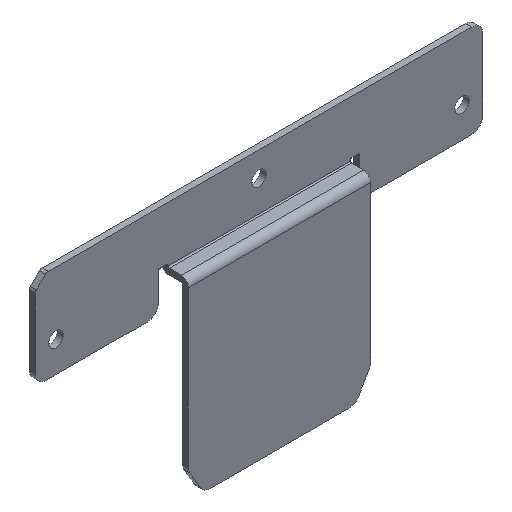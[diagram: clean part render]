
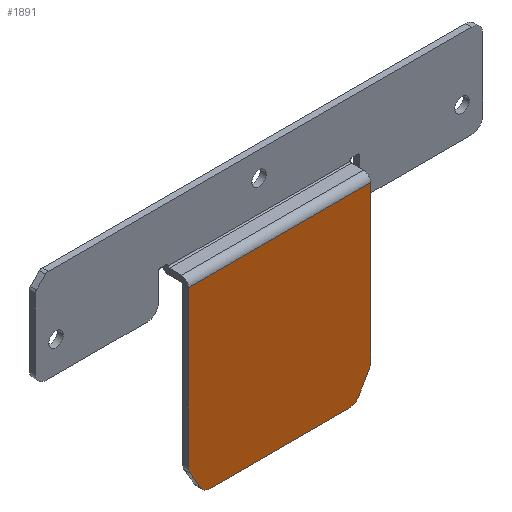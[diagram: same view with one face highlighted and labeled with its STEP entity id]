
A CAD part, isometric view. The second image highlights one B-rep face of the part: STEP entity #1891.
In plain terms, the highlighted planar face has unit normal (0, -1, 0).
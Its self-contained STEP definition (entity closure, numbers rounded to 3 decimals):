
#737=DIRECTION('',(-1.,0.,0.));
#738=VECTOR('',#737,48.);
#739=CARTESIAN_POINT('',(24.,-7.,-0.3));
#740=LINE('',#739,#738);
#767=CARTESIAN_POINT('',(18.268,-7.,-46.));
#768=DIRECTION('',(0.,-1.,0.));
#769=DIRECTION('',(0.,0.,-1.));
#770=AXIS2_PLACEMENT_3D('',#767,#768,#769);
#775=DIRECTION('',(1.,0.,0.));
#776=VECTOR('',#775,36.536);
#777=CARTESIAN_POINT('',(-18.268,-7.,-49.));
#778=LINE('',#777,#776);
#782=CARTESIAN_POINT('',(-18.268,-7.,-46.));
#783=DIRECTION('',(0.,-1.,0.));
#784=DIRECTION('',(-0.866,0.,-0.5));
#785=AXIS2_PLACEMENT_3D('',#782,#783,#784);
#790=DIRECTION('',(-0.5,0.,0.866));
#791=VECTOR('',#790,5.464);
#792=CARTESIAN_POINT('',(-20.866,-7.,-47.5));
#793=LINE('',#792,#791);
#797=CARTESIAN_POINT('',(-21.,-7.,-41.268));
#798=DIRECTION('',(0.,-1.,0.));
#799=DIRECTION('',(-1.,0.,0.));
#800=AXIS2_PLACEMENT_3D('',#797,#798,#799);
#805=DIRECTION('',(0.,0.,-1.));
#806=VECTOR('',#805,40.968);
#807=CARTESIAN_POINT('',(-24.,-7.,-0.3));
#808=LINE('',#807,#806);
#812=DIRECTION('',(0.,0.,1.));
#813=VECTOR('',#812,40.968);
#814=CARTESIAN_POINT('',(24.,-7.,-41.268));
#815=LINE('',#814,#813);
#819=CARTESIAN_POINT('',(21.,-7.,-41.268));
#820=DIRECTION('',(0.,-1.,0.));
#821=DIRECTION('',(0.866,0.,-0.5));
#822=AXIS2_PLACEMENT_3D('',#819,#820,#821);
#827=DIRECTION('',(-0.5,0.,-0.866));
#828=VECTOR('',#827,5.464);
#829=CARTESIAN_POINT('',(23.598,-7.,-42.768));
#830=LINE('',#829,#828);
#1204=CARTESIAN_POINT('',(24.,-7.,-0.3));
#1205=CARTESIAN_POINT('',(-24.,-7.,-0.3));
#1206=VERTEX_POINT('',#1204);
#1207=VERTEX_POINT('',#1205);
#1248=CARTESIAN_POINT('',(18.268,-7.,-49.));
#1250=VERTEX_POINT('',#1248);
#1252=CARTESIAN_POINT('',(20.866,-7.,-47.5));
#1253=VERTEX_POINT('',#1252);
#1258=CARTESIAN_POINT('',(23.598,-7.,-42.768));
#1259=VERTEX_POINT('',#1258);
#1260=CARTESIAN_POINT('',(24.,-7.,-41.268));
#1261=VERTEX_POINT('',#1260);
#1266=CARTESIAN_POINT('',(-20.866,-7.,-47.5));
#1267=VERTEX_POINT('',#1266);
#1268=CARTESIAN_POINT('',(-18.268,-7.,-49.));
#1269=VERTEX_POINT('',#1268);
#1276=CARTESIAN_POINT('',(-24.,-7.,-41.268));
#1277=VERTEX_POINT('',#1276);
#1278=CARTESIAN_POINT('',(-23.598,-7.,-42.768));
#1279=VERTEX_POINT('',#1278);
#1865=CARTESIAN_POINT('',(12.595,-7.,1.6));
#1866=DIRECTION('',(0.,-1.,0.));
#1867=DIRECTION('',(-1.,0.,0.));
#1868=AXIS2_PLACEMENT_3D('',#1865,#1866,#1867);
#1869=PLANE('',#1868);
#1871=ORIENTED_EDGE('',*,*,#1870,.F.);
#1873=ORIENTED_EDGE('',*,*,#1872,.F.);
#1875=ORIENTED_EDGE('',*,*,#1874,.F.);
#1877=ORIENTED_EDGE('',*,*,#1876,.T.);
#1879=ORIENTED_EDGE('',*,*,#1878,.F.);
#1881=ORIENTED_EDGE('',*,*,#1880,.F.);
#1882=ORIENTED_EDGE('',*,*,#1855,.F.);
#1884=ORIENTED_EDGE('',*,*,#1883,.F.);
#1886=ORIENTED_EDGE('',*,*,#1885,.F.);
#1888=ORIENTED_EDGE('',*,*,#1887,.T.);
#1889=EDGE_LOOP('',(#1871,#1873,#1875,#1877,#1879,#1881,#1882,#1884,#1886,
#1888));
#1890=FACE_OUTER_BOUND('',#1889,.F.);
#771=CIRCLE('',#770,3.);
#786=CIRCLE('',#785,3.);
#801=CIRCLE('',#800,3.);
#823=CIRCLE('',#822,3.);
#1855=EDGE_CURVE('',#1206,#1207,#740,.T.);
#1870=EDGE_CURVE('',#1250,#1253,#771,.T.);
#1872=EDGE_CURVE('',#1269,#1250,#778,.T.);
#1874=EDGE_CURVE('',#1267,#1269,#786,.T.);
#1876=EDGE_CURVE('',#1267,#1279,#793,.T.);
#1878=EDGE_CURVE('',#1277,#1279,#801,.T.);
#1880=EDGE_CURVE('',#1207,#1277,#808,.T.);
#1883=EDGE_CURVE('',#1261,#1206,#815,.T.);
#1885=EDGE_CURVE('',#1259,#1261,#823,.T.);
#1887=EDGE_CURVE('',#1259,#1253,#830,.T.);
#1891=ADVANCED_FACE('',(#1890),#1869,.T.);
